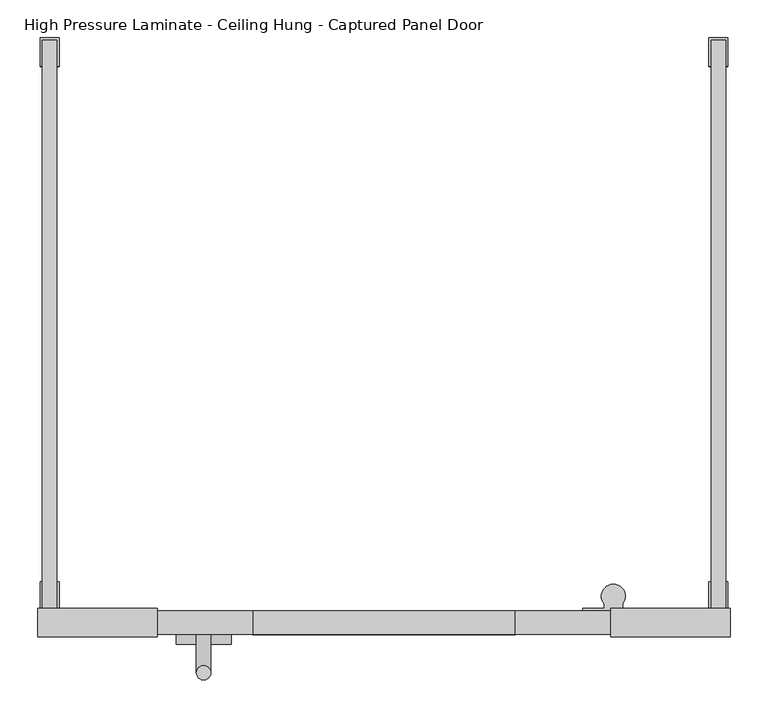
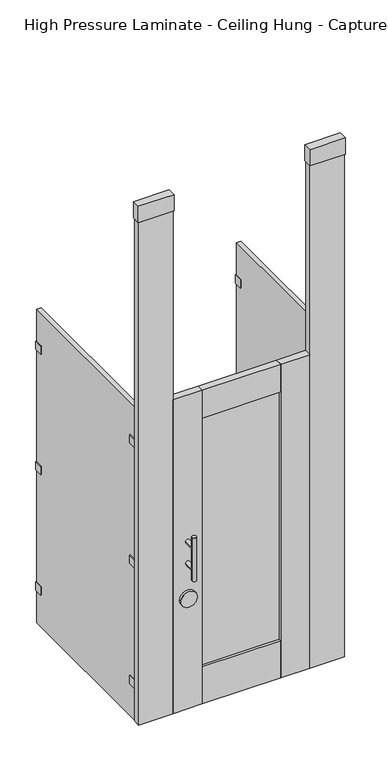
"""IFC4 building model written with IfcOpenShell, lengths in millimetres: proxy geometry, Toilet-Partition_Ironwood-Mfg_High-Pressure-Laminate : High Pressure Laminate - Ceiling Hung - Captured Panel Door."""

from ifc_helpers import new_model, si_unit, point, frame, frame_2d, origin, place, context, project, spatial, polyline, circle_curve, ellipse_curve, trimmed, segment, composite_curve, outline, extrude, source, transform, mapped, element, save
from ifc_brep_helpers import plane_surface, cylinder_surface, advanced_brep


def high_pressure_laminate_ceiling_hung_captured_panel_door_f9b3bd38(model_context):
    return source(origin(), model_context, "Body", "SolidModel", [
        extrude(outline(polyline([(542.925, -796.925), (542.925, -758.825), (701.675, -758.825), (701.675, -796.925), (542.925, -796.925)])), frame((0.0, 0.0, 2667.0), z_axis=(0.0, 0.0, 1.0), x_axis=(1.0, 0.0, 0.0)), (0.0, 0.0, 1.0), 76.1999999),
        extrude(outline(polyline([(0.0, 152.4), (31.75, 152.4), (31.75, 0.0), (0.0, 0.0), (0.0, 152.4)])), frame((546.1, -762.0, 304.8), z_axis=(1.181277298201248e-12, 0.0, 1.0), x_axis=(0.0, -1.0, 0.0)), (0.0, 0.0, 1.0), 2362.2),
        extrude(outline(polyline([(-60.325, -796.925), (-219.075, -796.925), (-219.075, -758.825), (-60.325, -758.825), (-60.325, -796.925)])), frame((0.0, 0.0, 2667.0), z_axis=(0.0, 0.0, 1.0), x_axis=(1.0, 0.0, 0.0)), (0.0, 0.0, 1.0), 76.1999999),
        extrude(outline(polyline([(0.0, -152.4), (0.0, 0.0), (31.75, 0.0), (31.75, -152.4), (0.0, -152.4)])), frame((-63.5, -762.0, 304.8), z_axis=(-1.1812772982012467e-12, 0.0, 1.0), x_axis=(0.0, -1.0, 0.0)), (0.0, 0.0, 1.0), 2362.2),
        extrude(outline(polyline([(415.925, -781.1988281), (66.675, -781.1988281), (66.675, -774.5511719), (415.925, -774.5511719), (415.925, -781.1988281)])), frame((0.0, 0.0, 479.425), z_axis=(0.0, 0.0, 1.0), x_axis=(1.0, 0.0, 0.0)), (0.0, 0.0, 1.0), 1168.4),
        extrude(outline(polyline([(66.675, -762.0), (66.675, -793.75), (-63.5, -793.75), (-63.5, -762.0), (66.675, -762.0)])), frame((0.0, 0.0, 304.8), z_axis=(0.0, 0.0, 1.0), x_axis=(1.0, 0.0, 0.0)), (0.0, 0.0, 1.0), 1473.2),
        extrude(outline(polyline([(415.925, -762.0), (546.1, -762.0), (546.1, -793.75), (415.925, -793.75), (415.925, -762.0)])), frame((0.0, 0.0, 304.8), z_axis=(0.0, 0.0, 1.0), x_axis=(1.0, 0.0, 0.0)), (0.0, 0.0, 1.0), 1473.2),
        extrude(outline(polyline([(415.925, -762.0), (415.925, -793.75), (66.675, -793.75), (66.675, -762.0), (415.925, -762.0)])), frame((0.0, 0.0, 1647.825), z_axis=(0.0, 0.0, 1.0), x_axis=(1.0, 0.0, 0.0)), (0.0, 0.0, 1.0), 130.175),
        extrude(outline(polyline([(415.925, -762.0), (415.925, -793.75), (66.675, -793.75), (66.675, -762.0), (415.925, -762.0)])), frame((0.0, 0.0, 304.8), z_axis=(0.0, 0.0, 1.0), x_axis=(1.0, 0.0, 0.0)), (0.0, 0.0, 1.0), 174.625),
        extrude(outline(composite_curve([segment(trimmed(circle_curve(frame_2d((827.0875, 1.5875)), 36.5125), [point((827.0875, -34.925))], [point((827.0875, 38.1))], False, "CARTESIAN"), True, "CONTINUOUS"), segment(trimmed(circle_curve(frame_2d((827.0875, 1.5875)), 36.5125), [point((827.0875, 38.1))], [point((827.0875, -34.925))], False, "CARTESIAN"), True, "CONTINUOUS")], self_intersect=False)), frame((0.0, -806.45, 0.0), z_axis=(0.0, 1.0, 0.0), x_axis=(0.0, 0.0, 1.0)), (0.0, 0.0, 1.0), 12.7),
        advanced_brep(
        [(-7.9375, -793.75, 1092.2), (11.1125, -793.75, 1092.2), (-7.9375, -793.75, 990.6), (11.1125, -793.75, 990.6), (11.1125, -844.55, 1092.2), (-7.9375, -844.55, 1092.2), (11.1125, -844.55, 990.6), (-7.9375, -844.55, 990.6), (-7.9375, -844.55, 1143.0), (11.1125, -844.55, 1143.0), (-7.9375, -844.55, 939.8), (11.1125, -844.55, 939.8)],
        [
            (0, 1, circle_curve(frame((1.5875, -793.75, 1092.2), z_axis=(0.0, 1.0, 0.0), x_axis=(1.0, 0.0, 0.0)), 9.525)),
            (1, 0, circle_curve(frame((1.5875, -793.75, 1092.2), z_axis=(0.0, 1.0, 0.0), x_axis=(1.0, 0.0, 0.0)), 9.525)),
            (2, 3, circle_curve(frame((1.5875, -793.75, 990.6), z_axis=(0.0, 1.0, 0.0), x_axis=(1.0, 0.0, 0.0)), 9.525)),
            (3, 2, circle_curve(frame((1.5875, -793.75, 990.6), z_axis=(0.0, 1.0, 0.0), x_axis=(1.0, 0.0, 0.0)), 9.525)),
            (1, 4),
            (4, 5, ellipse_curve(frame((1.5875, -844.55, 1092.2), z_axis=(0.0, 0.7071067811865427, 0.7071067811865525), x_axis=(0.0, -0.7071067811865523, 0.7071067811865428)), 13.4703842, 9.525)),
            (5, 0),
            (5, 4, ellipse_curve(frame((1.5875, -844.55, 1092.2), z_axis=(0.0, 0.7071067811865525, -0.7071067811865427), x_axis=(0.0, -0.7071067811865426, -0.7071067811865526)), 13.4703842, 9.525)),
            (3, 6),
            (6, 7, ellipse_curve(frame((1.5875, -844.55, 990.6), z_axis=(0.0, 0.7071067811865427, 0.7071067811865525), x_axis=(0.0, -0.7071067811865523, 0.7071067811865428)), 13.4703842, 9.525)),
            (7, 2),
            (7, 6, ellipse_curve(frame((1.5875, -844.55, 990.6), z_axis=(0.0, 0.7071067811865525, -0.7071067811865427), x_axis=(0.0, -0.7071067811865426, -0.7071067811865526)), 13.4703842, 9.525)),
            (8, 9, circle_curve(frame((1.5875, -844.55, 1143.0), z_axis=(0.0, 0.0, 1.0), x_axis=(1.0, 0.0, 0.0)), 9.525)),
            (9, 8, circle_curve(frame((1.5875, -844.55, 1143.0), z_axis=(0.0, 0.0, 1.0), x_axis=(1.0, 0.0, 0.0)), 9.525)),
            (10, 11, circle_curve(frame((1.5875, -844.55, 939.8), z_axis=(0.0, 0.0, -1.0), x_axis=(1.0, 0.0, 0.0)), 9.525)),
            (11, 10, circle_curve(frame((1.5875, -844.55, 939.8), z_axis=(0.0, 0.0, -1.0), x_axis=(1.0, 0.0, 0.0)), 9.525)),
            (8, 5),
            (5, 7),
            (7, 10),
            (11, 6),
            (6, 4),
            (4, 9),
        ],
        [
            plane_surface(frame((11.1125, -793.75, 1092.2), z_axis=(0.0, 1.0, 0.0), x_axis=(0.0, 0.0, -1.0))),
            cylinder_surface(frame((1.5875, -793.75, 1092.2), z_axis=(0.0, -1.0, 0.0), x_axis=(1.0, 0.0, 0.0)), 9.525),
            cylinder_surface(frame((1.5875, -793.75, 990.6), z_axis=(0.0, -1.0, 0.0), x_axis=(1.0, 0.0, 0.0)), 9.525),
            plane_surface(frame((11.1125, -844.55, 1143.0), z_axis=(0.0, 0.0, 1.0), x_axis=(0.0, 1.0, 0.0))),
            plane_surface(frame((11.1125, -844.55, 939.8), z_axis=(0.0, 0.0, -1.0), x_axis=(0.0, -1.0, 0.0))),
            cylinder_surface(frame((1.5875, -844.55, 939.8), z_axis=(0.0, 0.0, 1.0), x_axis=(1.0, 0.0, 0.0)), 9.525),
        ],
        [
            (0, [[1, 2]]),
            (0, [[3, 4]]),
            (1, [[-2, 5, 6, 7]]),
            (1, [[-1, -7, 8, -5]]),
            (2, [[-4, 9, 10, 11]]),
            (2, [[-3, -11, 12, -9]]),
            (3, [[13, 14]]),
            (4, [[15, 16]]),
            (5, [[-13, 17, 18, 19, -16, 20, 21, 22]]),
            (5, [[-14, -22, -8, -17]]),
            (5, [[-15, -19, -10, -20]]),
            (5, [[-18, -6, -21, -12]]),
        ],
    ),
        extrude(outline(composite_curve([segment(polyline([(581.3737081, -762.0), (505.1737081, -762.0), (505.1737081, -758.825), (533.7487081, -758.825), (533.7487081, -752.9581331)]), True, "CONTINUOUS"), segment(trimmed(circle_curve(frame_2d((546.1, -742.8902139)), 15.9347861), [point((533.7487081, -752.9581331))], [point((558.4512919, -752.9581331))], False, "CARTESIAN"), True, "CONTINUOUS"), segment(polyline([(558.4512919, -752.9581331), (558.4512919, -758.825), (581.3737081, -758.825), (581.3737081, -762.0)]), True, "CONTINUOUS")], self_intersect=False)), frame((0.0, 0.0, 1574.8), z_axis=(0.0, 0.0, 1.0), x_axis=(1.0, 0.0, 0.0)), (0.0, 0.0, 1.0), 63.5),
        extrude(outline(composite_curve([segment(polyline([(581.3737081, -762.0), (505.1737081, -762.0), (505.1737081, -758.825), (533.7487081, -758.825), (533.7487081, -752.9581331)]), True, "CONTINUOUS"), segment(trimmed(circle_curve(frame_2d((546.1, -742.8902139)), 15.9347861), [point((533.7487081, -752.9581331))], [point((558.4512919, -752.9581331))], False, "CARTESIAN"), True, "CONTINUOUS"), segment(polyline([(558.4512919, -752.9581331), (558.4512919, -758.825), (581.3737081, -758.825), (581.3737081, -762.0)]), True, "CONTINUOUS")], self_intersect=False)), frame((0.0, 0.0, 1009.6500001), z_axis=(0.0, 0.0, 1.0), x_axis=(1.0, 0.0, 0.0)), (0.0, 0.0, 1.0), 63.5),
        extrude(outline(composite_curve([segment(polyline([(581.3737081, -762.0), (505.1737081, -762.0), (505.1737081, -758.825), (533.7487081, -758.825), (533.7487081, -752.9581331)]), True, "CONTINUOUS"), segment(trimmed(circle_curve(frame_2d((546.1, -742.8902139)), 15.9347861), [point((533.7487081, -752.9581331))], [point((558.4512919, -752.9581331))], False, "CARTESIAN"), True, "CONTINUOUS"), segment(polyline([(558.4512919, -752.9581331), (558.4512919, -758.825), (581.3737081, -758.825), (581.3737081, -762.0)]), True, "CONTINUOUS")], self_intersect=False)), frame((0.0, 0.0, 444.5), z_axis=(0.0, 0.0, 1.0), x_axis=(1.0, 0.0, 0.0)), (0.0, 0.0, 1.0), 63.5),
        extrude(outline(polyline([(676.148, -723.9), (676.148, -758.825), (695.198, -758.825), (695.198, -723.9), (698.373, -723.9), (698.373, -762.0), (672.973, -762.0), (672.973, -723.9), (676.148, -723.9)])), frame((0.0, 0.0, 1587.8188137), z_axis=(0.0, 0.0, 1.0), x_axis=(1.0, 0.0, 0.0)), (0.0, 0.0, 1.0), 38.1),
        extrude(outline(polyline([(676.148, -38.1), (672.973, -38.1), (672.973, 0.0), (698.373, 0.0), (698.373, -38.1), (695.198, -38.1), (695.198, -3.175), (676.148, -3.175), (676.148, -38.1)])), frame((0.0, 0.0, 1587.8188137), z_axis=(0.0, 0.0, 1.0), x_axis=(1.0, 0.0, 0.0)), (0.0, 0.0, 1.0), 38.1),
        extrude(outline(polyline([(676.148, -723.9), (676.148, -758.825), (695.198, -758.825), (695.198, -723.9), (698.373, -723.9), (698.373, -762.0), (672.973, -762.0), (672.973, -723.9), (676.148, -723.9)])), frame((0.0, 0.0, 1022.35), z_axis=(0.0, 0.0, 1.0), x_axis=(1.0, 0.0, 0.0)), (0.0, 0.0, 1.0), 38.1),
        extrude(outline(polyline([(676.148, -38.1), (672.973, -38.1), (672.973, 0.0), (698.373, 0.0), (698.373, -38.1), (695.198, -38.1), (695.198, -3.175), (676.148, -3.175), (676.148, -38.1)])), frame((0.0, 0.0, 1022.35), z_axis=(0.0, 0.0, 1.0), x_axis=(1.0, 0.0, 0.0)), (0.0, 0.0, 1.0), 38.1),
        extrude(outline(polyline([(676.148, -723.9), (676.148, -758.825), (695.198, -758.825), (695.198, -723.9), (698.373, -723.9), (698.373, -762.0), (672.973, -762.0), (672.973, -723.9), (676.148, -723.9)])), frame((0.0, 0.0, 457.2), z_axis=(0.0, 0.0, 1.0), x_axis=(1.0, 0.0, 0.0)), (0.0, 0.0, 1.0), 38.1),
        extrude(outline(polyline([(676.148, -38.1), (672.973, -38.1), (672.973, 0.0), (698.373, 0.0), (698.373, -38.1), (695.198, -38.1), (695.198, -3.175), (676.148, -3.175), (676.148, -38.1)])), frame((0.0, 0.0, 457.2), z_axis=(0.0, 0.0, 1.0), x_axis=(1.0, 0.0, 0.0)), (0.0, 0.0, 1.0), 38.1),
        extrude(outline(polyline([(-212.598, -723.9), (-212.598, -758.825), (-193.548, -758.825), (-193.548, -723.9), (-190.373, -723.9), (-190.373, -762.0), (-215.773, -762.0), (-215.773, -723.9), (-212.598, -723.9)])), frame((0.0, 0.0, 1587.8188137), z_axis=(0.0, 0.0, 1.0), x_axis=(1.0, 0.0, 0.0)), (0.0, 0.0, 1.0), 38.1),
        extrude(outline(polyline([(-212.598, -38.1), (-215.773, -38.1), (-215.773, 0.0), (-190.373, 0.0), (-190.373, -38.1), (-193.548, -38.1), (-193.548, -3.175), (-212.598, -3.175), (-212.598, -38.1)])), frame((0.0, 0.0, 1587.8188137), z_axis=(0.0, 0.0, 1.0), x_axis=(1.0, 0.0, 0.0)), (0.0, 0.0, 1.0), 38.1),
        extrude(outline(polyline([(-212.598, -723.9), (-212.598, -758.825), (-193.548, -758.825), (-193.548, -723.9), (-190.373, -723.9), (-190.373, -762.0), (-215.773, -762.0), (-215.773, -723.9), (-212.598, -723.9)])), frame((0.0, 0.0, 1022.35), z_axis=(0.0, 0.0, 1.0), x_axis=(1.0, 0.0, 0.0)), (0.0, 0.0, 1.0), 38.1),
        extrude(outline(polyline([(-212.598, -38.1), (-215.773, -38.1), (-215.773, 0.0), (-190.373, 0.0), (-190.373, -38.1), (-193.548, -38.1), (-193.548, -3.175), (-212.598, -3.175), (-212.598, -38.1)])), frame((0.0, 0.0, 1022.35), z_axis=(0.0, 0.0, 1.0), x_axis=(1.0, 0.0, 0.0)), (0.0, 0.0, 1.0), 38.1),
        extrude(outline(polyline([(-212.598, -723.9), (-212.598, -758.825), (-193.548, -758.825), (-193.548, -723.9), (-190.373, -723.9), (-190.373, -762.0), (-215.773, -762.0), (-215.773, -723.9), (-212.598, -723.9)])), frame((0.0, 0.0, 457.2), z_axis=(0.0, 0.0, 1.0), x_axis=(1.0, 0.0, 0.0)), (0.0, 0.0, 1.0), 38.1),
        extrude(outline(polyline([(-212.598, -38.1), (-215.773, -38.1), (-215.773, 0.0), (-190.373, 0.0), (-190.373, -38.1), (-193.548, -38.1), (-193.548, -3.175), (-212.598, -3.175), (-212.598, -38.1)])), frame((0.0, 0.0, 457.2), z_axis=(0.0, 0.0, 1.0), x_axis=(1.0, 0.0, 0.0)), (0.0, 0.0, 1.0), 38.1),
        extrude(outline(polyline([(-193.548, -3.175), (-193.548, -758.825), (-212.598, -758.825), (-212.598, -3.175), (-193.548, -3.175)])), frame((0.0, 0.0, 304.8), z_axis=(0.0, 0.0, 1.0), x_axis=(1.0, 0.0, 0.0)), (0.0, 0.0, 1.0), 1473.2),
        extrude(outline(polyline([(695.198, -3.175), (695.198, -758.825), (676.148, -758.825), (676.148, -3.175), (695.198, -3.175)])), frame((0.0, 0.0, 304.8), z_axis=(0.0, 0.0, 1.0), x_axis=(1.0, 0.0, 0.0)), (0.0, 0.0, 1.0), 1473.2),
    ])


if __name__ == "__main__":
    model = new_model("IFC4")
    model_context = context("Model", 3, world=origin())
    ifc_project = project(units=[si_unit("LENGTHUNIT", "METRE", prefix="MILLI")], contexts=[model_context])
    site = spatial("IfcSite", under=ifc_project)
    building = spatial("IfcBuilding", under=site)
    placement = place(None, origin())
    high_pressure_laminate_ceiling_hung_captured_panel_door_shape = high_pressure_laminate_ceiling_hung_captured_panel_door_f9b3bd38(model_context)
    element("IfcBuildingElementProxy", 1, Name="Toilet-Partition_Ironwood-Mfg_High-Pressure-Laminate : High Pressure Laminate - Ceiling Hung - Captured Panel Door", ObjectType="Toilet-Partition_Ironwood-Mfg_High-Pressure-Laminate : High Pressure Laminate - Ceiling Hung - Captured Panel Door", at=placement, inside=building, context=model_context, shape_type="MappedRepresentation", body=[
        mapped(high_pressure_laminate_ceiling_hung_captured_panel_door_shape, transform((0.0, 0.0, 0.0), x_axis=(1.0, 0.0, 0.0), y_axis=(0.0, 1.0, 0.0), z_axis=(0.0, 0.0, 1.0))),
    ])
    save(model, "model.ifc")
